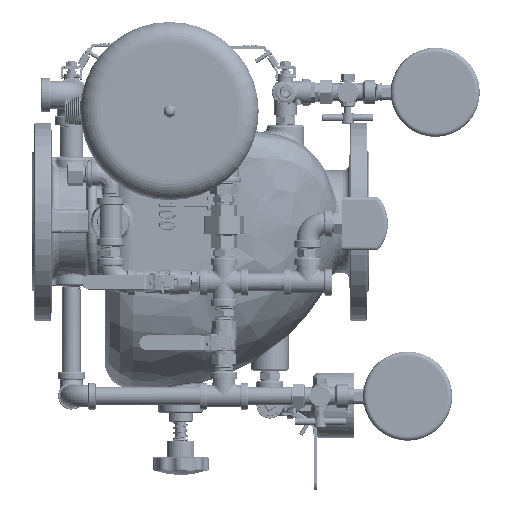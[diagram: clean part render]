
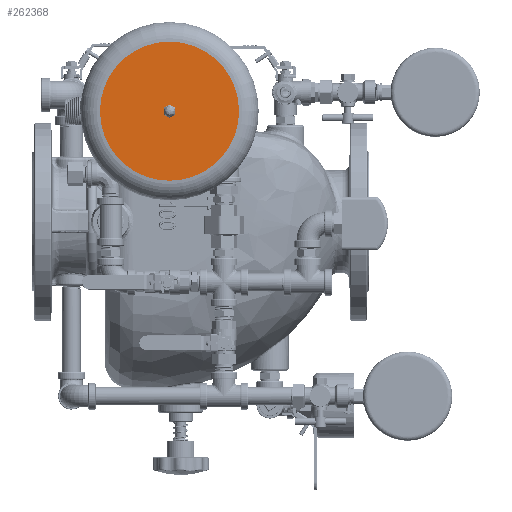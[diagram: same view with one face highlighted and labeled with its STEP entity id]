
A CAD part, front view. The second image highlights one B-rep face of the part: STEP entity #262368.
In plain terms, the highlighted planar face has unit normal (0, -1, 0) as drawn and (0, 0, 1) by its records, which use the part's own axes.
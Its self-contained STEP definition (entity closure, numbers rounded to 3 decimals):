
#258216=CARTESIAN_POINT('',(2.887,31.,90.));
#258217=DIRECTION('',(0.,0.,-1.));
#258218=DIRECTION('',(0.866,-0.5,0.));
#258219=AXIS2_PLACEMENT_3D('',#258216,#258217,#258218);
#258221=DIRECTION('',(0.5,-0.866,0.));
#258222=VECTOR('',#258221,5.774);
#258223=CARTESIAN_POINT('',(-7.073,35.25,90.));
#258224=LINE('',#258223,#258222);
#258225=DIRECTION('',(1.,0.,0.));
#258226=VECTOR('',#258225,5.774);
#258227=CARTESIAN_POINT('',(-2.887,29.5,90.));
#258228=LINE('',#258227,#258226);
#258229=DIRECTION('',(0.5,0.866,0.));
#258230=VECTOR('',#258229,5.774);
#258231=CARTESIAN_POINT('',(4.186,30.25,90.));
#258232=LINE('',#258231,#258230);
#258233=DIRECTION('',(-0.5,0.866,0.));
#258234=VECTOR('',#258233,5.774);
#258235=CARTESIAN_POINT('',(7.073,36.75,90.));
#258236=LINE('',#258235,#258234);
#258237=DIRECTION('',(-1.,0.,0.));
#258238=VECTOR('',#258237,5.774);
#258239=CARTESIAN_POINT('',(2.887,42.5,90.));
#258240=LINE('',#258239,#258238);
#258241=DIRECTION('',(-0.5,-0.866,0.));
#258242=VECTOR('',#258241,5.774);
#258243=CARTESIAN_POINT('',(-4.186,41.75,90.));
#258244=LINE('',#258243,#258242);
#258245=CARTESIAN_POINT('',(0.,36.,90.));
#258246=DIRECTION('',(0.,0.,1.));
#258247=DIRECTION('',(0.,-1.,0.));
#258248=AXIS2_PLACEMENT_3D('',#258245,#258246,#258247);
#258260=CARTESIAN_POINT('',(0.,36.,90.));
#258261=DIRECTION('',(0.,0.,-1.));
#258262=DIRECTION('',(0.,-1.,0.));
#258263=AXIS2_PLACEMENT_3D('',#258260,#258261,#258262);
#260677=CARTESIAN_POINT('',(-2.887,31.,90.));
#260678=DIRECTION('',(0.,0.,-1.));
#260679=DIRECTION('',(0.,-1.,0.));
#260680=AXIS2_PLACEMENT_3D('',#260677,#260678,#260679);
#260702=CARTESIAN_POINT('',(-5.774,36.,90.));
#260703=DIRECTION('',(0.,0.,-1.));
#260704=DIRECTION('',(-0.866,-0.5,0.));
#260705=AXIS2_PLACEMENT_3D('',#260702,#260703,#260704);
#260790=CARTESIAN_POINT('',(-2.887,41.,90.));
#260791=DIRECTION('',(0.,0.,-1.));
#260792=DIRECTION('',(-0.866,0.5,0.));
#260793=AXIS2_PLACEMENT_3D('',#260790,#260791,#260792);
#260940=CARTESIAN_POINT('',(2.887,41.,90.));
#260941=DIRECTION('',(0.,0.,-1.));
#260942=DIRECTION('',(0.,1.,0.));
#260943=AXIS2_PLACEMENT_3D('',#260940,#260941,#260942);
#260950=CARTESIAN_POINT('',(5.774,36.,90.));
#260951=DIRECTION('',(0.,0.,-1.));
#260952=DIRECTION('',(0.866,0.5,0.));
#260953=AXIS2_PLACEMENT_3D('',#260950,#260951,#260952);
#261314=CARTESIAN_POINT('',(0.,-42.,90.));
#261316=VERTEX_POINT('',#261314);
#261326=CARTESIAN_POINT('',(0.,114.,90.));
#261328=VERTEX_POINT('',#261326);
#261348=CARTESIAN_POINT('',(2.887,42.5,90.));
#261349=CARTESIAN_POINT('',(-2.887,42.5,90.));
#261350=VERTEX_POINT('',#261348);
#261351=VERTEX_POINT('',#261349);
#261352=CARTESIAN_POINT('',(-4.186,41.75,90.));
#261353=CARTESIAN_POINT('',(-7.073,36.75,90.));
#261354=VERTEX_POINT('',#261352);
#261355=VERTEX_POINT('',#261353);
#261356=CARTESIAN_POINT('',(-7.073,35.25,90.));
#261357=CARTESIAN_POINT('',(-4.186,30.25,90.));
#261358=VERTEX_POINT('',#261356);
#261359=VERTEX_POINT('',#261357);
#261360=CARTESIAN_POINT('',(-2.887,29.5,90.));
#261361=CARTESIAN_POINT('',(2.887,29.5,90.));
#261362=VERTEX_POINT('',#261360);
#261363=VERTEX_POINT('',#261361);
#261364=CARTESIAN_POINT('',(4.186,30.25,90.));
#261365=CARTESIAN_POINT('',(7.073,35.25,90.));
#261366=VERTEX_POINT('',#261364);
#261367=VERTEX_POINT('',#261365);
#261368=CARTESIAN_POINT('',(7.073,36.75,90.));
#261369=CARTESIAN_POINT('',(4.186,41.75,90.));
#261370=VERTEX_POINT('',#261368);
#261371=VERTEX_POINT('',#261369);
#262333=CARTESIAN_POINT('',(0.,36.,90.));
#262334=DIRECTION('',(0.,0.,1.));
#262335=DIRECTION('',(0.,1.,0.));
#262336=AXIS2_PLACEMENT_3D('',#262333,#262334,#262335);
#262337=PLANE('',#262336);
#262339=ORIENTED_EDGE('',*,*,#262338,.F.);
#262341=ORIENTED_EDGE('',*,*,#262340,.T.);
#262342=EDGE_LOOP('',(#262339,#262341));
#262343=FACE_OUTER_BOUND('',#262342,.F.);
#262345=ORIENTED_EDGE('',*,*,#262344,.T.);
#262347=ORIENTED_EDGE('',*,*,#262346,.F.);
#262349=ORIENTED_EDGE('',*,*,#262348,.T.);
#262350=ORIENTED_EDGE('',*,*,#262326,.F.);
#262351=ORIENTED_EDGE('',*,*,#261510,.T.);
#262353=ORIENTED_EDGE('',*,*,#262352,.F.);
#262355=ORIENTED_EDGE('',*,*,#262354,.T.);
#262357=ORIENTED_EDGE('',*,*,#262356,.F.);
#262359=ORIENTED_EDGE('',*,*,#262358,.T.);
#262361=ORIENTED_EDGE('',*,*,#262360,.F.);
#262363=ORIENTED_EDGE('',*,*,#262362,.T.);
#262365=ORIENTED_EDGE('',*,*,#262364,.F.);
#262366=EDGE_LOOP('',(#262345,#262347,#262349,#262350,#262351,#262353,#262355,
#262357,#262359,#262361,#262363,#262365));
#262367=FACE_BOUND('',#262366,.F.);
#262368=ADVANCED_FACE('',(#262343,#262367),#262337,.T.);
#258220=CIRCLE('',#258219,1.5);
#258249=CIRCLE('',#258248,78.);
#258264=CIRCLE('',#258263,78.);
#260681=CIRCLE('',#260680,1.5);
#260706=CIRCLE('',#260705,1.5);
#260794=CIRCLE('',#260793,1.5);
#260944=CIRCLE('',#260943,1.5);
#260954=CIRCLE('',#260953,1.5);
#261510=EDGE_CURVE('',#261366,#261367,#258232,.T.);
#262326=EDGE_CURVE('',#261366,#261363,#258220,.T.);
#262338=EDGE_CURVE('',#261316,#261328,#258249,.T.);
#262340=EDGE_CURVE('',#261316,#261328,#258264,.T.);
#262344=EDGE_CURVE('',#261358,#261359,#258224,.T.);
#262346=EDGE_CURVE('',#261362,#261359,#260681,.T.);
#262348=EDGE_CURVE('',#261362,#261363,#258228,.T.);
#262352=EDGE_CURVE('',#261370,#261367,#260954,.T.);
#262354=EDGE_CURVE('',#261370,#261371,#258236,.T.);
#262356=EDGE_CURVE('',#261350,#261371,#260944,.T.);
#262358=EDGE_CURVE('',#261350,#261351,#258240,.T.);
#262360=EDGE_CURVE('',#261354,#261351,#260794,.T.);
#262362=EDGE_CURVE('',#261354,#261355,#258244,.T.);
#262364=EDGE_CURVE('',#261358,#261355,#260706,.T.);
